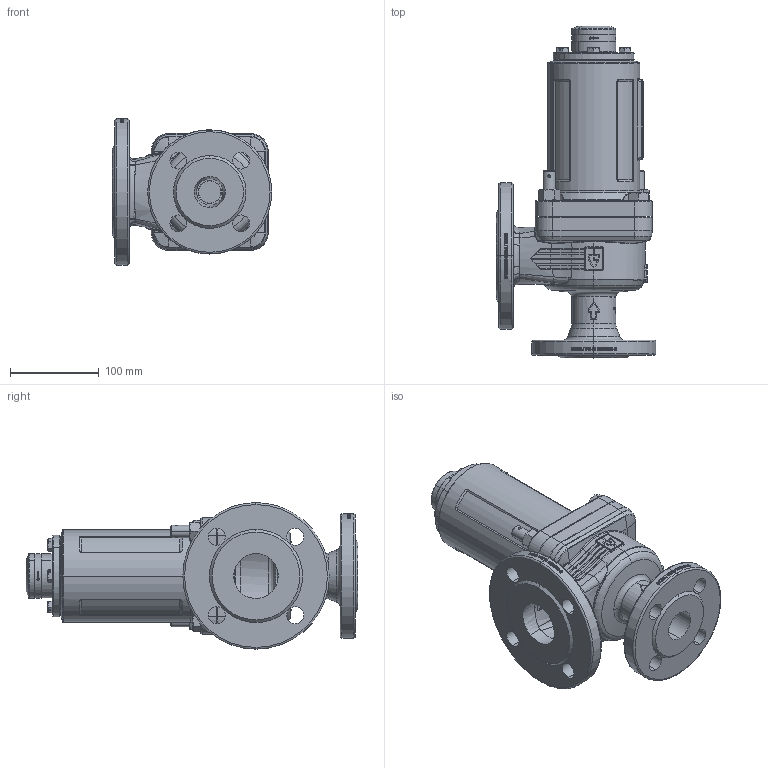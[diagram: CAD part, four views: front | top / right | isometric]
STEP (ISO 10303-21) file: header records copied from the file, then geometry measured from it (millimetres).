
FILE_DESCRIPTION (( 'STEP AP214' ), '1' );
FILE_NAME ('355tGFO_32_FLFL_3250.STEP', '2020-01-15T14:50:30', ( '' ), ( '' ), 'SwSTEP 2.0', 'SolidWorks 2018', '' );
FILE_SCHEMA (( 'AUTOMOTIVE_DESIGN' ));
Length unit declared in the file: millimetre
Products named in the file (1): 355tGFO_32_FLFL_3250
Bounding box: 180 x 374.3 x 165 mm (x, y, z)
Volume: 1870907.4 mm3; surface area: 399754.9 mm2
Topology: 15 solids, 15 shells, 1914 faces, 5196 edges, 3493 vertices
Faces by surface type: bspline 586, plane 532, cylinder 474, cone 211, torus 110, sphere 1
Entity records: 150133 total; most frequent: CARTESIAN_POINT 84753, ORIENTED_EDGE 10322, DIRECTION 7451, EDGE_CURVE 5161, VERTEX_POINT 3492, AXIS2_PLACEMENT_3D 2953, EDGE_LOOP 2189, B_SPLINE_CURVE_WITH_KNOTS 1970
